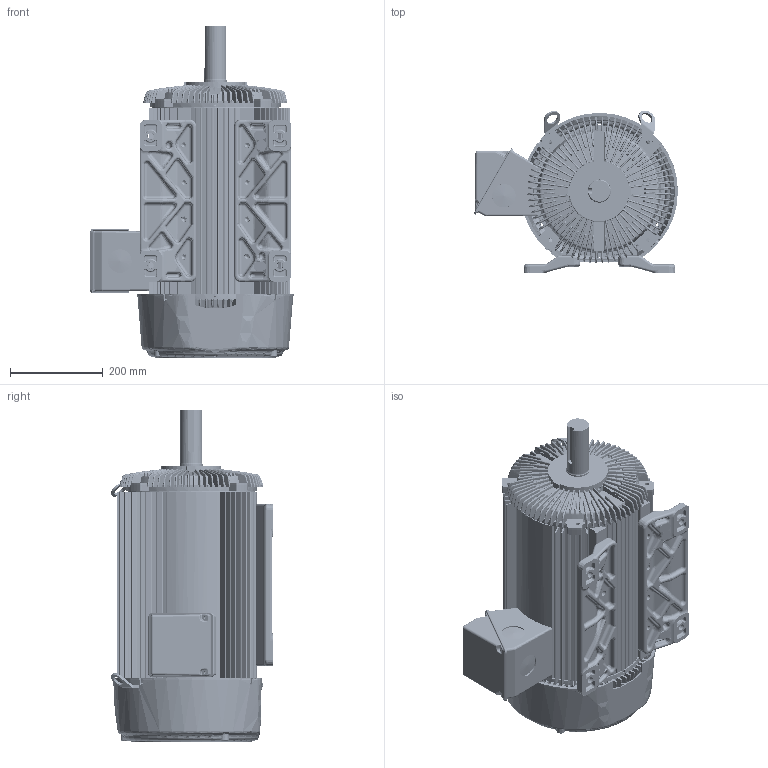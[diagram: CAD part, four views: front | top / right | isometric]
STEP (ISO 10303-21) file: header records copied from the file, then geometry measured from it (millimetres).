
FILE_DESCRIPTION((''),'2;1');
FILE_NAME('STD_LONG_NON_FLNG_ASM','2014-07-01T',('EMD2341'),('Nidec Motor Corporation'),'PRO/ENGINEER BY PARAMETRIC TECHNOLOGY CORPORATION, 2013150','PRO/ENGINEER BY PARAMETRIC TECHNOLOGY CORPORATION, 2013150','');
FILE_SCHEMA(('CONFIG_CONTROL_DESIGN'));
Length unit declared in the file: inch
Products named in the file (15): 0367969_AF0; 0368171; 0372589-BKT_AF0; 0378229_AF0; 1001040-OP13_ASM; 0375099-BKT_AF0; 0360239_AF0; 1001042-OP19_ASM; 0183520; 0369702; 0364285; 0369733; 0364282-OBB; 0364292; STD_LONG_NON_FLNG_ASM
Assembly tree (16 placements, depth 3):
  STD_LONG_NON_FLNG_ASM
    0367969_AF0
    0368171  x2
    1001040-OP13_ASM
      0372589-BKT_AF0
      0378229_AF0
    1001042-OP19_ASM
      0375099-BKT_AF0
      0360239_AF0
    0183520
    0369702
    0364285
    0369733  x2
    0364282-OBB
    0364292
Bounding box: 440.71 x 351.71 x 717.88 mm (x, y, z)
Volume: 9878115.7 mm3; surface area: 3342808.9 mm2
Topology: 16 solids, 16 shells, 7422 faces, 18582 edges, 11135 vertices
Faces by surface type: bspline 3022, plane 1748, cylinder 1210, cone 732, torus 510, sphere 176, extrusion 24
Entity records: 309394 total; most frequent: CARTESIAN_POINT 166792, ORIENTED_EDGE 34328, DIRECTION 22577, EDGE_CURVE 17164, VERTEX_POINT 10356, AXIS2_PLACEMENT_3D 8570, B_SPLINE_CURVE_WITH_KNOTS 7242, EDGE_LOOP 7024
